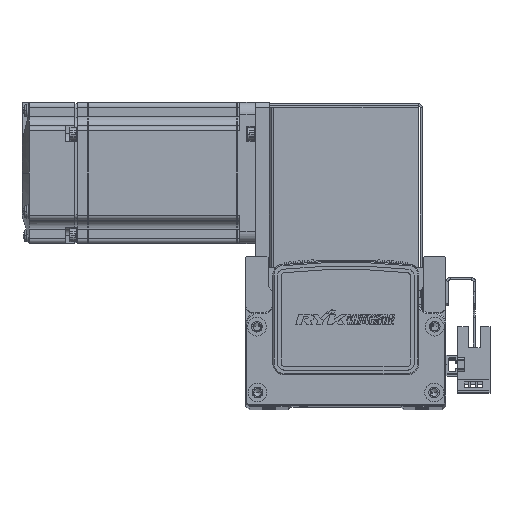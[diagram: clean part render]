
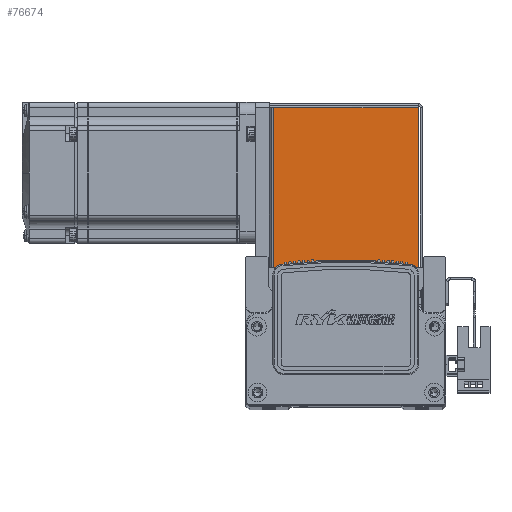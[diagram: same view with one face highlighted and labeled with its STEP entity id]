
A CAD part, top view. The second image highlights one B-rep face of the part: STEP entity #76674.
In plain terms, the highlighted planar face has unit normal (0, 0, 1).
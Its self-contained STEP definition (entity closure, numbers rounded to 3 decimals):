
#5324 = DIRECTION ( 'NONE',  ( 0., 1., 0. ) ) ;
#5342 = CARTESIAN_POINT ( 'NONE',  ( 30.763, 0.737, 35. ) ) ;
#5357 = DIRECTION ( 'NONE',  ( 0., 1., 0. ) ) ;
#5359 = CARTESIAN_POINT ( 'NONE',  ( 0., 68.5, 35. ) ) ;
#5372 = DIRECTION ( 'NONE',  ( -1., 0., 0. ) ) ;
#5382 = CARTESIAN_POINT ( 'NONE',  ( -30.793, 0., 35. ) ) ;
#6515 = LINE ( 'NONE', #5359, #6516 ) ;
#6516 = VECTOR ( 'NONE', #5372, 1000. ) ;
#6555 = LINE ( 'NONE', #5342, #6556 ) ;
#6556 = VECTOR ( 'NONE', #5324, 1000. ) ;
#6614 = VECTOR ( 'NONE', #5357, 1000. ) ;
#6631 = LINE ( 'NONE', #5382, #6614 ) ;
#6752 = LINE ( 'NONE', #58566, #6753 ) ;
#6753 = VECTOR ( 'NONE', #58592, 1000. ) ;
#9238 = VERTEX_POINT ( 'NONE', #18247 ) ;
#9316 = VERTEX_POINT ( 'NONE', #18390 ) ;
#9338 = VERTEX_POINT ( 'NONE', #18403 ) ;
#9355 = VERTEX_POINT ( 'NONE', #18302 ) ;
#12763 = ORIENTED_EDGE ( 'NONE', *, *, #62550, .F. ) ;
#12797 = ORIENTED_EDGE ( 'NONE', *, *, #62636, .F. ) ;
#12857 = ORIENTED_EDGE ( 'NONE', *, *, #62529, .T. ) ;
#12875 = ORIENTED_EDGE ( 'NONE', *, *, #62538, .T. ) ;
#18247 = CARTESIAN_POINT ( 'NONE',  ( -30.793, 68.5, 35. ) ) ;
#18302 = CARTESIAN_POINT ( 'NONE',  ( -30.793, 0.737, 35. ) ) ;
#18390 = CARTESIAN_POINT ( 'NONE',  ( 30.763, 0.737, 35. ) ) ;
#18403 = CARTESIAN_POINT ( 'NONE',  ( 30.763, 68.5, 35. ) ) ;
#31545 = AXIS2_PLACEMENT_3D ( 'NONE', #61713, #61690, #61694 ) ;
#58566 = CARTESIAN_POINT ( 'NONE',  ( -32.5, 0.737, 35. ) ) ;
#58592 = DIRECTION ( 'NONE',  ( -1., 0., 0. ) ) ;
#60435 = EDGE_LOOP ( 'NONE', ( #12857, #12875, #12763, #12797 ) ) ;
#60850 = FACE_OUTER_BOUND ( 'NONE', #60435, .T. ) ;
#61661 = PLANE ( 'NONE',  #31545 ) ;
#61690 = DIRECTION ( 'NONE',  ( 0., 0., -1. ) ) ;
#61694 = DIRECTION ( 'NONE',  ( -1., 0., 0. ) ) ;
#61713 = CARTESIAN_POINT ( 'NONE',  ( 0., 0., 35. ) ) ;
#62529 = EDGE_CURVE ( 'NONE', #9316, #9338, #6555, .T. ) ;
#62538 = EDGE_CURVE ( 'NONE', #9338, #9238, #6515, .T. ) ;
#62550 = EDGE_CURVE ( 'NONE', #9355, #9238, #6631, .T. ) ;
#62636 = EDGE_CURVE ( 'NONE', #9316, #9355, #6752, .T. ) ;
#76674 = ADVANCED_FACE ( 'NONE', ( #60850 ), #61661, .F. ) ;
